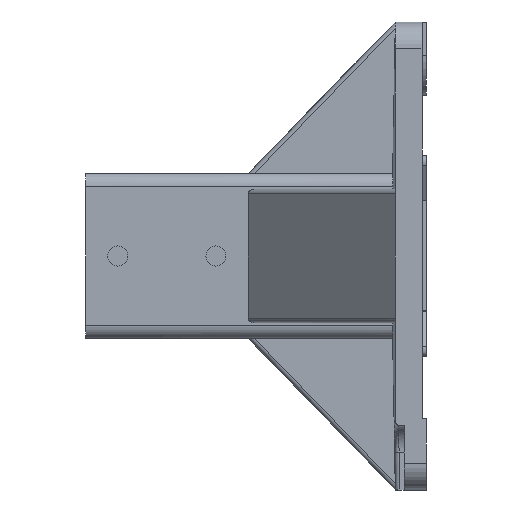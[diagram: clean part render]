
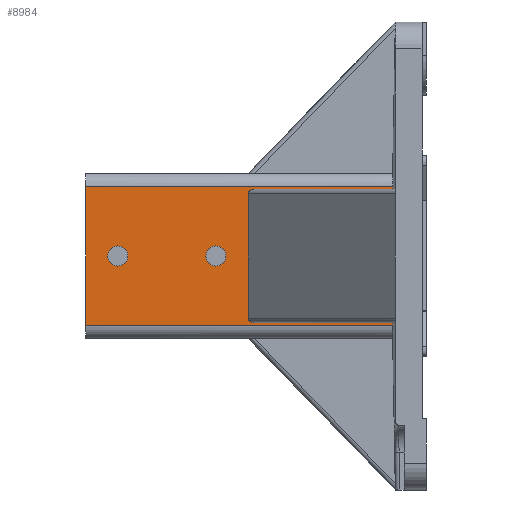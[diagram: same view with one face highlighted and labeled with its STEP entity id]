
A CAD part, left-side view. The second image highlights one B-rep face of the part: STEP entity #8984.
In plain terms, the highlighted planar face has unit normal (-1, 0, 0).
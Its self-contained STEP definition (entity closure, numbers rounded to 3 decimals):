
#123 = VERTEX_POINT ( 'NONE', #2217 ) ;
#136 = EDGE_CURVE ( 'NONE', #6042, #1859, #6410, .T. ) ;
#166 = DIRECTION ( 'NONE',  ( -1., 0., 0. ) ) ;
#186 = EDGE_CURVE ( 'NONE', #5719, #2810, #2776, .T. ) ;
#236 = ORIENTED_EDGE ( 'NONE', *, *, #8775, .F. ) ;
#289 = AXIS2_PLACEMENT_3D ( 'NONE', #4976, #4339, #2189 ) ;
#406 = EDGE_LOOP ( 'NONE', ( #7117, #6231 ) ) ;
#487 = CARTESIAN_POINT ( 'NONE',  ( -37., 139., 31. ) ) ;
#616 = CIRCLE ( 'NONE', #6305, 4.5 ) ;
#644 = CARTESIAN_POINT ( 'NONE',  ( -37., 139., 30. ) ) ;
#650 = DIRECTION ( 'NONE',  ( -1., 0., 0. ) ) ;
#859 = ORIENTED_EDGE ( 'NONE', *, *, #7200, .F. ) ;
#875 = VECTOR ( 'NONE', #7111, 1000. ) ;
#890 = VERTEX_POINT ( 'NONE', #4939 ) ;
#952 = LINE ( 'NONE', #2658, #2612 ) ;
#1129 = VECTOR ( 'NONE', #4422, 1000. ) ;
#1358 = CARTESIAN_POINT ( 'NONE',  ( -37., 64.846, -30. ) ) ;
#1406 = DIRECTION ( 'NONE',  ( 0., 0., 1. ) ) ;
#1417 = VERTEX_POINT ( 'NONE', #2225 ) ;
#1427 = CARTESIAN_POINT ( 'NONE',  ( -37., 63.213, -30. ) ) ;
#1513 = CIRCLE ( 'NONE', #7553, 4.5 ) ;
#1737 = FACE_BOUND ( 'NONE', #6841, .T. ) ;
#1823 = EDGE_LOOP ( 'NONE', ( #4356, #6710, #236, #4092, #5284, #3025, #4491, #9169, #859, #2802 ) ) ;
#1859 = VERTEX_POINT ( 'NONE', #6235 ) ;
#1955 = DIRECTION ( 'NONE',  ( 0., 0., -1. ) ) ;
#2130 = CARTESIAN_POINT ( 'NONE',  ( -37., 66., -29.172 ) ) ;
#2162 = CIRCLE ( 'NONE', #4283, 4.5 ) ;
#2189 = DIRECTION ( 'NONE',  ( 0., 0., 1. ) ) ;
#2217 = CARTESIAN_POINT ( 'NONE',  ( -37., 80.5, 4.5 ) ) ;
#2225 = CARTESIAN_POINT ( 'NONE',  ( -37., 63.213, 30. ) ) ;
#2269 = CARTESIAN_POINT ( 'NONE',  ( -37., 139., 31. ) ) ;
#2304 = DIRECTION ( 'NONE',  ( -1., 0., 0. ) ) ;
#2313 =( BOUNDED_CURVE ( )  B_SPLINE_CURVE ( 3, ( #8845, #3151, #8080, #8972 ),
 .UNSPECIFIED., .F., .F. ) 
 B_SPLINE_CURVE_WITH_KNOTS ( ( 4, 4 ),
 ( 0., 1.571 ),
 .UNSPECIFIED. ) 
 CURVE ( )  GEOMETRIC_REPRESENTATION_ITEM ( )  RATIONAL_B_SPLINE_CURVE ( ( 1., 0.805, 0.805, 1. ) ) 
 REPRESENTATION_ITEM ( '' )  );
#2363 = CARTESIAN_POINT ( 'NONE',  ( -37., 124.5, 0. ) ) ;
#2542 = CARTESIAN_POINT ( 'NONE',  ( -37., 139., -31. ) ) ;
#2612 = VECTOR ( 'NONE', #1955, 1000. ) ;
#2623 = DIRECTION ( 'NONE',  ( 0., -1., 0. ) ) ;
#2658 = CARTESIAN_POINT ( 'NONE',  ( -37., 1.187, -93. ) ) ;
#2681 = CARTESIAN_POINT ( 'NONE',  ( -37., 66., -28. ) ) ;
#2735 = VECTOR ( 'NONE', #2623, 1000. ) ;
#2776 = LINE ( 'NONE', #2269, #5626 ) ;
#2802 = ORIENTED_EDGE ( 'NONE', *, *, #4959, .T. ) ;
#2810 = VERTEX_POINT ( 'NONE', #2542 ) ;
#2829 = CARTESIAN_POINT ( 'NONE',  ( -37., 66., 30. ) ) ;
#3025 = ORIENTED_EDGE ( 'NONE', *, *, #6914, .F. ) ;
#3029 = DIRECTION ( 'NONE',  ( 0., 0., 1. ) ) ;
#3054 = CARTESIAN_POINT ( 'NONE',  ( -37., 1.187, -93. ) ) ;
#3151 = CARTESIAN_POINT ( 'NONE',  ( -37., 66., 29.172 ) ) ;
#3207 = VECTOR ( 'NONE', #8597, 1000. ) ;
#3258 = CARTESIAN_POINT ( 'NONE',  ( -37., 66., -28. ) ) ;
#3344 = VERTEX_POINT ( 'NONE', #4794 ) ;
#3405 = EDGE_CURVE ( 'NONE', #123, #4210, #6141, .T. ) ;
#3493 = FACE_OUTER_BOUND ( 'NONE', #1823, .T. ) ;
#3524 = LINE ( 'NONE', #3054, #3207 ) ;
#3568 = DIRECTION ( 'NONE',  ( 0., 1., 0. ) ) ;
#3603 = VERTEX_POINT ( 'NONE', #8093 ) ;
#3667 =( BOUNDED_CURVE ( )  B_SPLINE_CURVE ( 3, ( #1427, #1358, #2130, #2681 ),
 .UNSPECIFIED., .F., .F. ) 
 B_SPLINE_CURVE_WITH_KNOTS ( ( 4, 4 ),
 ( 1.571, 3.142 ),
 .UNSPECIFIED. ) 
 CURVE ( )  GEOMETRIC_REPRESENTATION_ITEM ( )  RATIONAL_B_SPLINE_CURVE ( ( 1., 0.805, 0.805, 1. ) ) 
 REPRESENTATION_ITEM ( '' )  );
#3715 = LINE ( 'NONE', #5221, #2735 ) ;
#4092 = ORIENTED_EDGE ( 'NONE', *, *, #186, .T. ) ;
#4177 = DIRECTION ( 'NONE',  ( 0., 0., 1. ) ) ;
#4210 = VERTEX_POINT ( 'NONE', #7581 ) ;
#4230 = EDGE_CURVE ( 'NONE', #5968, #3344, #952, .T. ) ;
#4283 = AXIS2_PLACEMENT_3D ( 'NONE', #7271, #166, #3029 ) ;
#4330 = EDGE_CURVE ( 'NONE', #1859, #7572, #3667, .T. ) ;
#4338 = CARTESIAN_POINT ( 'NONE',  ( -37., 66., 28. ) ) ;
#4339 = DIRECTION ( 'NONE',  ( -1., 0., 0. ) ) ;
#4356 = ORIENTED_EDGE ( 'NONE', *, *, #5738, .F. ) ;
#4422 = DIRECTION ( 'NONE',  ( 0., 1., 0. ) ) ;
#4491 = ORIENTED_EDGE ( 'NONE', *, *, #136, .T. ) ;
#4794 = CARTESIAN_POINT ( 'NONE',  ( -37., 1.187, 30. ) ) ;
#4865 = CARTESIAN_POINT ( 'NONE',  ( -37., 124.5, 0. ) ) ;
#4911 = EDGE_CURVE ( 'NONE', #4210, #123, #2162, .T. ) ;
#4939 = CARTESIAN_POINT ( 'NONE',  ( -37., 124.5, -4.5 ) ) ;
#4959 = EDGE_CURVE ( 'NONE', #8489, #1417, #2313, .T. ) ;
#4976 = CARTESIAN_POINT ( 'NONE',  ( -37., 80.5, 0. ) ) ;
#5007 = AXIS2_PLACEMENT_3D ( 'NONE', #9126, #7046, #1406 ) ;
#5016 = CARTESIAN_POINT ( 'NONE',  ( -37., 1.187, 31. ) ) ;
#5221 = CARTESIAN_POINT ( 'NONE',  ( -37., 139., -31. ) ) ;
#5239 = LINE ( 'NONE', #5965, #8552 ) ;
#5284 = ORIENTED_EDGE ( 'NONE', *, *, #8234, .T. ) ;
#5527 = ORIENTED_EDGE ( 'NONE', *, *, #4911, .F. ) ;
#5626 = VECTOR ( 'NONE', #6488, 1000. ) ;
#5719 = VERTEX_POINT ( 'NONE', #487 ) ;
#5738 = EDGE_CURVE ( 'NONE', #3344, #1417, #8865, .T. ) ;
#5965 = CARTESIAN_POINT ( 'NONE',  ( -37., 139., 31. ) ) ;
#5968 = VERTEX_POINT ( 'NONE', #5016 ) ;
#6042 = VERTEX_POINT ( 'NONE', #8871 ) ;
#6141 = CIRCLE ( 'NONE', #289, 4.5 ) ;
#6219 = VECTOR ( 'NONE', #3568, 1000. ) ;
#6231 = ORIENTED_EDGE ( 'NONE', *, *, #8598, .F. ) ;
#6235 = CARTESIAN_POINT ( 'NONE',  ( -37., 63.213, -30. ) ) ;
#6305 = AXIS2_PLACEMENT_3D ( 'NONE', #2363, #2304, #8610 ) ;
#6410 = LINE ( 'NONE', #7909, #1129 ) ;
#6488 = DIRECTION ( 'NONE',  ( 0., 0., -1. ) ) ;
#6710 = ORIENTED_EDGE ( 'NONE', *, *, #4230, .F. ) ;
#6841 = EDGE_LOOP ( 'NONE', ( #8893, #5527 ) ) ;
#6867 = CARTESIAN_POINT ( 'NONE',  ( -37., 1.187, -31. ) ) ;
#6914 = EDGE_CURVE ( 'NONE', #6042, #8297, #3524, .T. ) ;
#7016 = PLANE ( 'NONE',  #5007 ) ;
#7046 = DIRECTION ( 'NONE',  ( -1., 0., 0. ) ) ;
#7111 = DIRECTION ( 'NONE',  ( 0., 0., -1. ) ) ;
#7117 = ORIENTED_EDGE ( 'NONE', *, *, #8901, .F. ) ;
#7200 = EDGE_CURVE ( 'NONE', #8489, #7572, #8816, .T. ) ;
#7271 = CARTESIAN_POINT ( 'NONE',  ( -37., 80.5, 0. ) ) ;
#7553 = AXIS2_PLACEMENT_3D ( 'NONE', #4865, #650, #4177 ) ;
#7572 = VERTEX_POINT ( 'NONE', #3258 ) ;
#7581 = CARTESIAN_POINT ( 'NONE',  ( -37., 80.5, -4.5 ) ) ;
#7909 = CARTESIAN_POINT ( 'NONE',  ( -37., 139., -30. ) ) ;
#8080 = CARTESIAN_POINT ( 'NONE',  ( -37., 64.846, 30. ) ) ;
#8090 = DIRECTION ( 'NONE',  ( 0., -1., 0. ) ) ;
#8093 = CARTESIAN_POINT ( 'NONE',  ( -37., 124.5, 4.5 ) ) ;
#8234 = EDGE_CURVE ( 'NONE', #2810, #8297, #3715, .T. ) ;
#8297 = VERTEX_POINT ( 'NONE', #6867 ) ;
#8335 = FACE_BOUND ( 'NONE', #406, .T. ) ;
#8489 = VERTEX_POINT ( 'NONE', #4338 ) ;
#8552 = VECTOR ( 'NONE', #8090, 1000. ) ;
#8597 = DIRECTION ( 'NONE',  ( 0., 0., -1. ) ) ;
#8598 = EDGE_CURVE ( 'NONE', #890, #3603, #616, .T. ) ;
#8610 = DIRECTION ( 'NONE',  ( 0., 0., 1. ) ) ;
#8775 = EDGE_CURVE ( 'NONE', #5719, #5968, #5239, .T. ) ;
#8816 = LINE ( 'NONE', #2829, #875 ) ;
#8845 = CARTESIAN_POINT ( 'NONE',  ( -37., 66., 28. ) ) ;
#8865 = LINE ( 'NONE', #644, #6219 ) ;
#8871 = CARTESIAN_POINT ( 'NONE',  ( -37., 1.187, -30. ) ) ;
#8893 = ORIENTED_EDGE ( 'NONE', *, *, #3405, .F. ) ;
#8901 = EDGE_CURVE ( 'NONE', #3603, #890, #1513, .T. ) ;
#8972 = CARTESIAN_POINT ( 'NONE',  ( -37., 63.213, 30. ) ) ;
#8984 = ADVANCED_FACE ( 'NONE', ( #1737, #8335, #3493 ), #7016, .T. ) ;
#9126 = CARTESIAN_POINT ( 'NONE',  ( -37., 139., 31. ) ) ;
#9169 = ORIENTED_EDGE ( 'NONE', *, *, #4330, .T. ) ;
